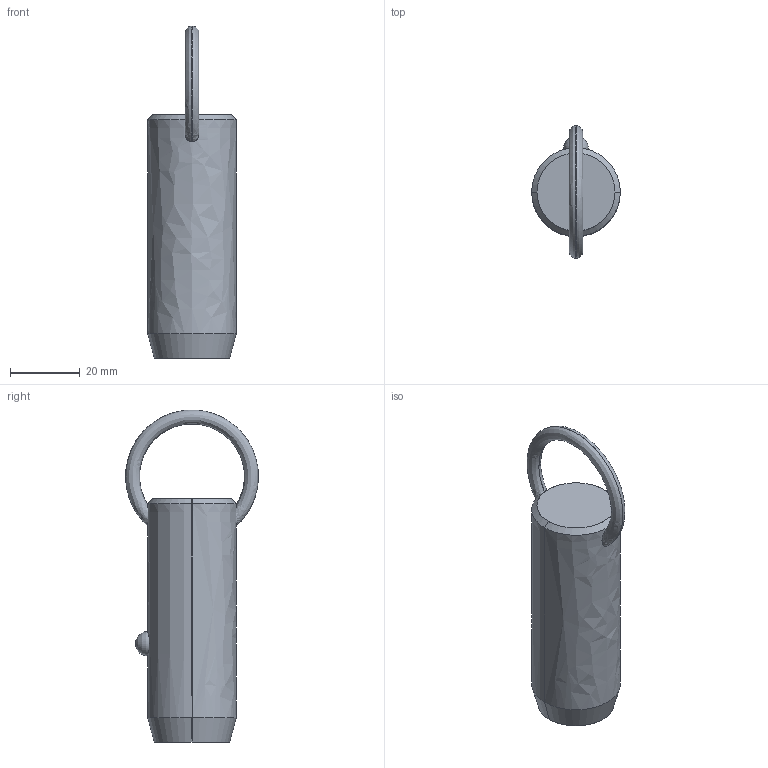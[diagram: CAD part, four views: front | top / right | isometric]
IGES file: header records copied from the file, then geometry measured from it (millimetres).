
Start section: SolidWorks IGES file using analytic representation for surfaces
Global section: file name: C:\Users\liam_\OneDrive\Documents\WORK\Work for WixRoyd\Job Files\J-00019 - Matt Davis CAD Checking\04. CAD Drawings\automotion20190605\P1250.2_v2\P1250.2_v2_20190729_IGES\P1250.100-100.igs; native system: SolidWorks 2017; preprocessor: SolidWorks 2017; author: liam_; date: 190730.173240; units: millimetre
Bounding box: 25.4 x 38.09 x 95.2 mm (x, y, z)
Surface area: 7343.1 mm2 (no closed solid volume)
Topology: 0 solids, 0 shells, 12 faces, 298 edges, 296 vertices
Faces by surface type: revolution 8, bspline 4
